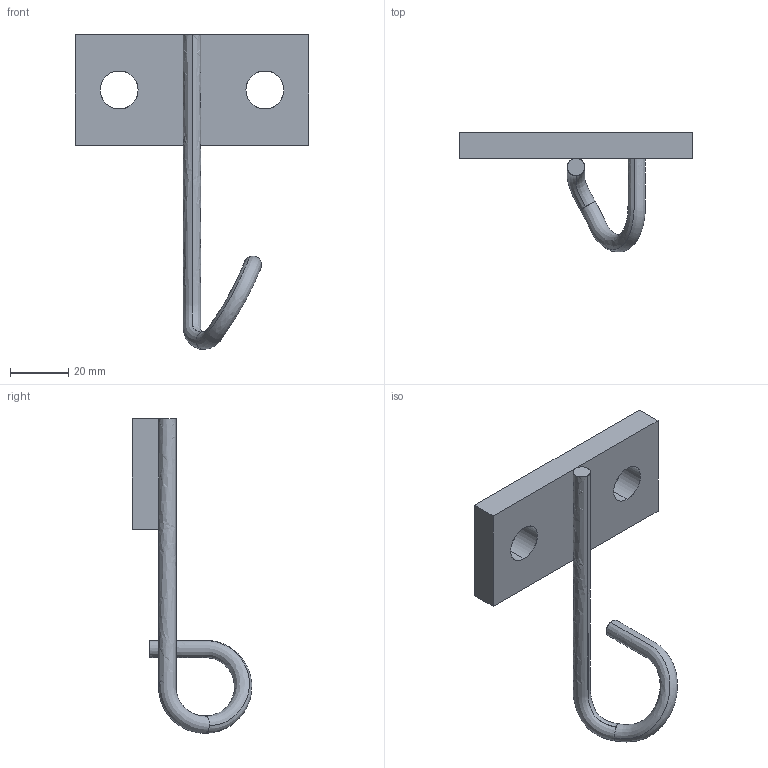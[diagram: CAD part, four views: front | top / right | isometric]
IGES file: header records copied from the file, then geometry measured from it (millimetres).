
Global section: file name: E:\UnigraphicsGraphicData\MISUMI_PRESS-PARTS\IGES\3d_dklh80_01852_r00.igs; native system: NX V5.0; preprocessor: UGS NX IGES V5.0; author: MISUMI; date: 20110105.160526; units: millimetre
Bounding box: 80 x 40.96 x 108 mm (x, y, z)
Surface area: 11797.6 mm2 (no closed solid volume)
Topology: 0 solids, 0 shells, 17 faces, 112 edges, 112 vertices
Faces by surface type: bspline 17
